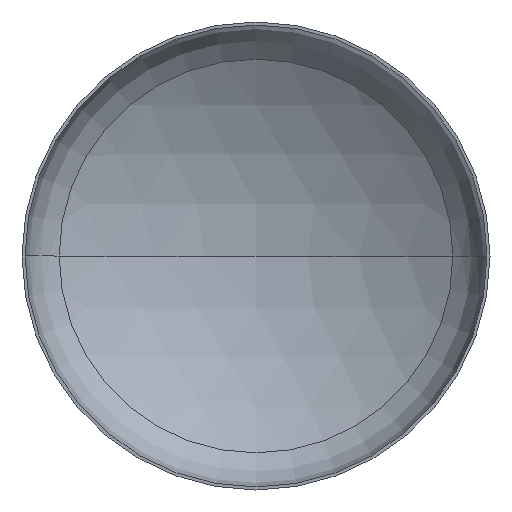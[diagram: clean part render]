
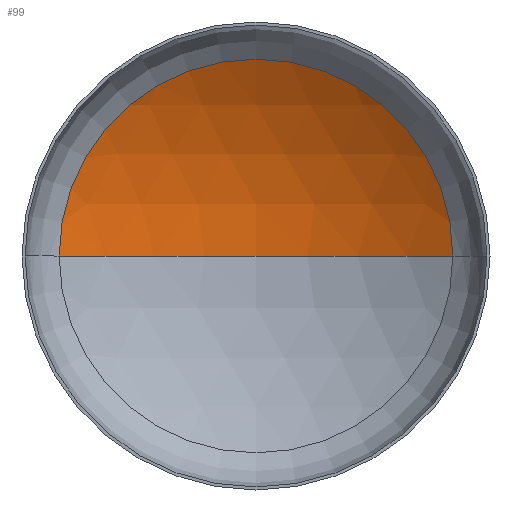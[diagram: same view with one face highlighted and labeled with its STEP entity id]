
A CAD part, front view. The second image highlights one B-rep face of the part: STEP entity #99.
In plain terms, the highlighted spherical face has radius 6400 mm.
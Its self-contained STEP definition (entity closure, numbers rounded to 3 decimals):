
#3 = VERTEX_POINT ( 'NONE', #297 ) ;
#5 = CARTESIAN_POINT ( 'NONE',  ( -3364.642, 1166.305, 0. ) ) ;
#22 = DIRECTION ( 'NONE',  ( 1., 0., 0. ) ) ;
#24 = DIRECTION ( 'NONE',  ( 0., 0., 1. ) ) ;
#28 = VERTEX_POINT ( 'NONE', #155 ) ;
#33 = ORIENTED_EDGE ( 'NONE', *, *, #129, .T. ) ;
#38 = CARTESIAN_POINT ( 'NONE',  ( 0., -4277.883, 0. ) ) ;
#62 = ORIENTED_EDGE ( 'NONE', *, *, #132, .F. ) ;
#67 = DIRECTION ( 'NONE',  ( -1., 0., 0. ) ) ;
#74 = DIRECTION ( 'NONE',  ( 0., 0., -1. ) ) ;
#78 = AXIS2_PLACEMENT_3D ( 'NONE', #38, #24, #22 ) ;
#79 = AXIS2_PLACEMENT_3D ( 'NONE', #90, #74, #67 ) ;
#83 = AXIS2_PLACEMENT_3D ( 'NONE', #284, #287, #311 ) ;
#90 = CARTESIAN_POINT ( 'NONE',  ( 0., -4277.883, 0. ) ) ;
#94 = EDGE_LOOP ( 'NONE', ( #62, #33, #389 ) ) ;
#99 = ADVANCED_FACE ( 'NONE', ( #149 ), #386, .F. ) ;
#100 = AXIS2_PLACEMENT_3D ( 'NONE', #245, #182, #243 ) ;
#101 = CIRCLE ( 'NONE', #79, 6400. ) ;
#127 = EDGE_CURVE ( 'NONE', #28, #216, #197, .T. ) ;
#129 = EDGE_CURVE ( 'NONE', #3, #28, #101, .T. ) ;
#132 = EDGE_CURVE ( 'NONE', #3, #216, #372, .T. ) ;
#149 = FACE_OUTER_BOUND ( 'NONE', #94, .T. ) ;
#155 = CARTESIAN_POINT ( 'NONE',  ( 3364.642, 1166.305, 0. ) ) ;
#182 = DIRECTION ( 'NONE',  ( 0., 0., -1. ) ) ;
#197 = CIRCLE ( 'NONE', #83, 3364.642 ) ;
#216 = VERTEX_POINT ( 'NONE', #5 ) ;
#243 = DIRECTION ( 'NONE',  ( -1., 0., 0. ) ) ;
#245 = CARTESIAN_POINT ( 'NONE',  ( 0., -4277.883, 0. ) ) ;
#284 = CARTESIAN_POINT ( 'NONE',  ( 0., 1166.305, 0. ) ) ;
#287 = DIRECTION ( 'NONE',  ( 0., -1., 0. ) ) ;
#297 = CARTESIAN_POINT ( 'NONE',  ( 0., 2122.117, 0. ) ) ;
#311 = DIRECTION ( 'NONE',  ( 1., 0., 0. ) ) ;
#372 = CIRCLE ( 'NONE', #78, 6400. ) ;
#386 = SPHERICAL_SURFACE ( 'NONE', #100, 6400. ) ;
#389 = ORIENTED_EDGE ( 'NONE', *, *, #127, .T. ) ;
